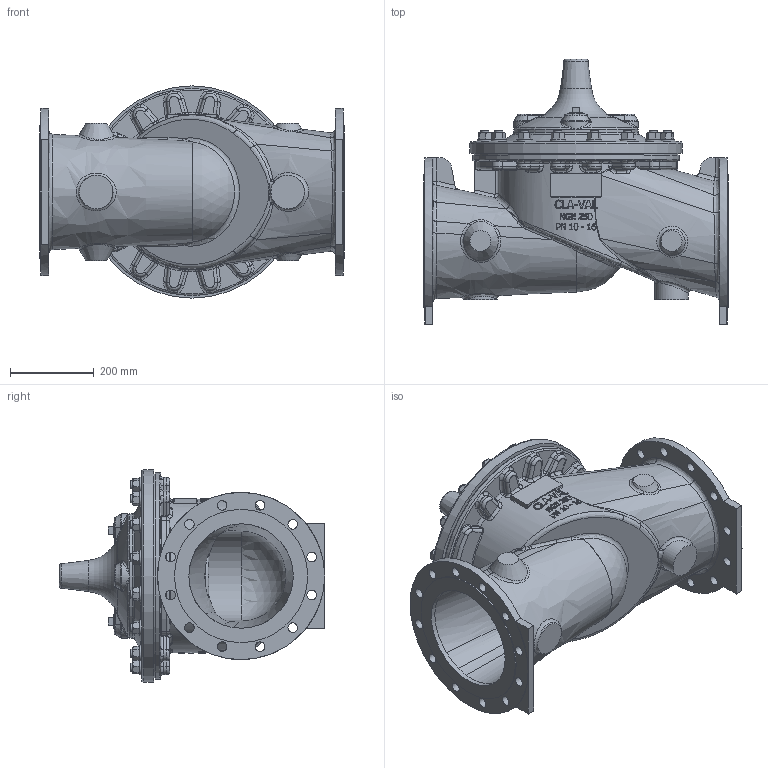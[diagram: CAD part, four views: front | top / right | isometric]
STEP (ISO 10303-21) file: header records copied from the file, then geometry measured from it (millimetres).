
FILE_DESCRIPTION(/* description */ (''),/* implementation_level */ '2;1');
FILE_NAME(/* name */ 'G:\Doc_Liberes\SymbolesCAD\Modeles_3D\FichierSTP\VanneDeBase\NGE250-16RF.stp',/* time_stamp */ '2023-08-17T14:45:32+02:00',/* author */ ('theo'),/* organization */ (''),/* preprocessor_version */ 'ST-DEVELOPER v18.1',/* originating_system */ 'Autodesk Inventor 2022',/* authorisation */ '');
FILE_SCHEMA (('AUTOMOTIVE_DESIGN { 1 0 10303 214 3 1 1 }'));
Products named in the file (1): NGE250-10_Simplifier_1
Bounding box: 730 x 635.08 x 508 mm (x, y, z)
Volume: 23288925.1 mm3; surface area: 2716931.6 mm2
Topology: 1 solids, 1 shells, 2164 faces, 5558 edges, 3472 vertices
Faces by surface type: plane 705, bspline 523, cone 466, cylinder 305, torus 136, sphere 29
Full cylindrical faces by diameter (mm): 19.05 x32, 23 x24, 33 x2, 37.306 x16, 80 x1, 250 x2, 260 x1, 267 x2, 297.18 x1, 319 x2, 400 x2, 488.5 x1, 495 x1, 508 x1
Entity records: 149146 total; most frequent: CARTESIAN_POINT 101507, ORIENTED_EDGE 11068, DIRECTION 8550, EDGE_CURVE 5534, AXIS2_PLACEMENT_3D 3636, VERTEX_POINT 3472, EDGE_LOOP 2344, FACE_OUTER_BOUND 2164
